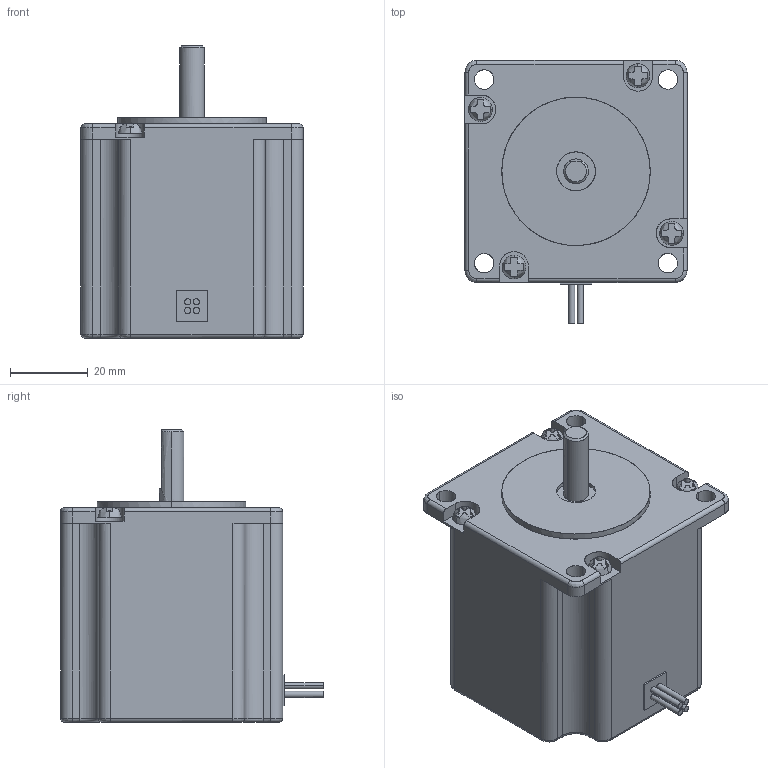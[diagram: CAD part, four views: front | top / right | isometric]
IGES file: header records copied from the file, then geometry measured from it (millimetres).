
Bounding box: 57 x 67.5 x 75 mm (x, y, z)
Surface area: 19356.8 mm2 (no closed solid volume)
Topology: 0 solids, 0 shells, 204 faces, 1094 edges, 1094 vertices
Faces by surface type: bspline 204
